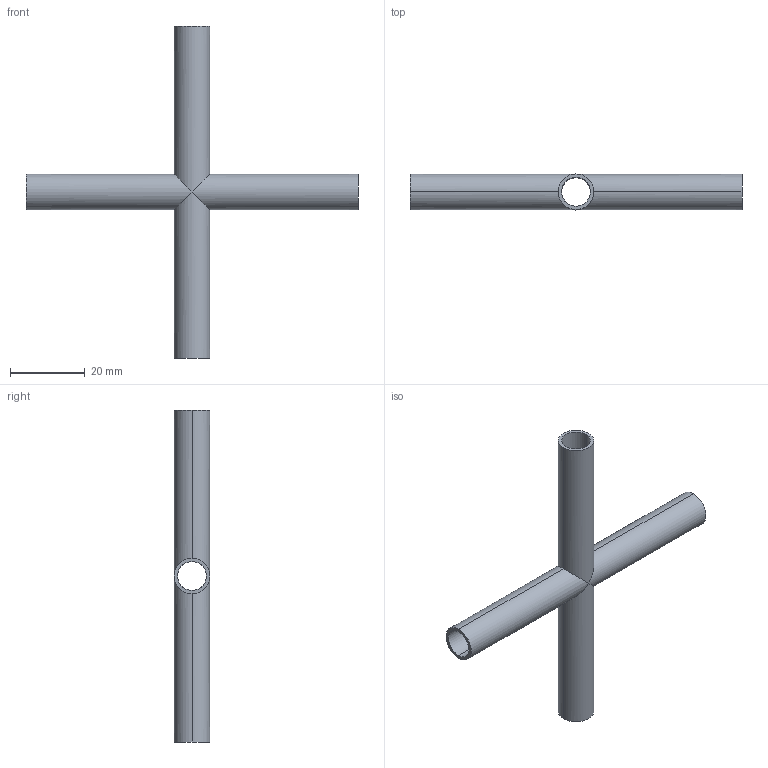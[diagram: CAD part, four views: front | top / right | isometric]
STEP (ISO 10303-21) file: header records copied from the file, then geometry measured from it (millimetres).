
FILE_DESCRIPTION (( 'STEP AP214' ), '1' );
FILE_NAME ('TE9WWWW6L.375-...STEP', '2016-05-22T04:54:51', ( 'eran' ), ( '' ), 'SwSTEP 2.0', 'SolidWorks 2016', '' );
FILE_SCHEMA (( 'AUTOMOTIVE_DESIGN' ));
Length unit declared in the file: millimetre
Products named in the file (1): TE9WWWW6L.375-..
Bounding box: 88.9 x 9.53 x 88.9 mm (x, y, z)
Volume: 4022.3 mm3; surface area: 9141.2 mm2
Topology: 1 solids, 1 shells, 20 faces, 48 edges, 28 vertices
Faces by surface type: cylinder 16, plane 4
Entity records: 618 total; most frequent: CARTESIAN_POINT 145, ORIENTED_EDGE 96, DIRECTION 90, EDGE_CURVE 48, AXIS2_PLACEMENT_3D 37, VERTEX_POINT 28, EDGE_LOOP 24, FACE_OUTER_BOUND 20
